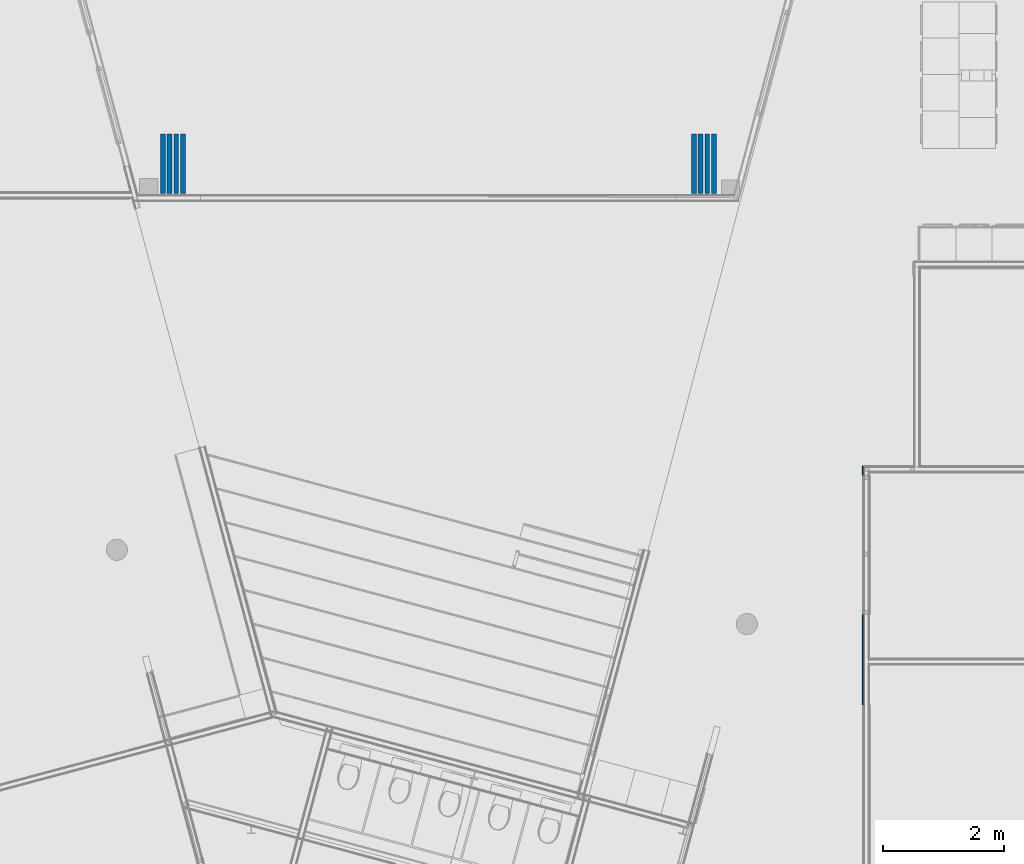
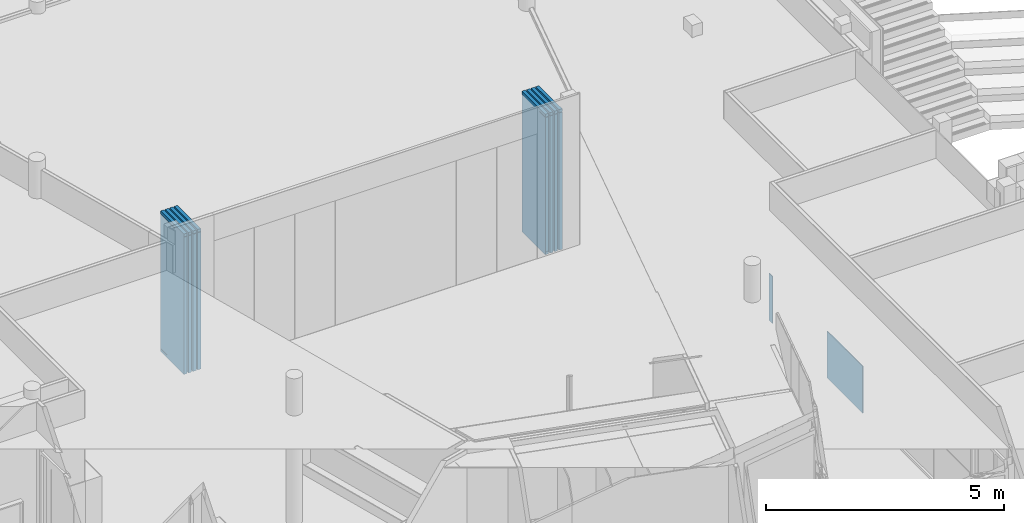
# One storey, part 16 of 167: 10 walls.
"""IFC2X3 building model written with IfcOpenShell, lengths in millimetres."""

from ifc_helpers import new_model, entity, si_unit, converted_unit, derived_unit, money_unit, direction, frame, origin_with_axes, place, context, subcontext, project, spatial, faceted_brep, material, type_object, element, save


model = new_model("IFC2X3")

# Units and contexts
model_context = context("Model", 3, precision=0.01, world=origin_with_axes(), true_north=direction((0.0, 1.0)))
plan_context = context("Plan", 3, precision=0.01, world=origin_with_axes(), true_north=direction((0.0, 1.0)))
body_context = subcontext(model_context, "Body", "Model", "MODEL_VIEW")
ifc_project = project(units=[si_unit("LENGTHUNIT", "METRE", prefix="MILLI"), si_unit("AREAUNIT", "SQUARE_METRE"), si_unit("VOLUMEUNIT", "CUBIC_METRE"), converted_unit("PLANEANGLEUNIT", "DEGREE", entity("IfcPlaneAngleMeasure", 0.0174532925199), si_unit("PLANEANGLEUNIT", "RADIAN"), dimensions=[0, 0, 0, 0, 0, 0, 0]), si_unit("SOLIDANGLEUNIT", "STERADIAN"), money_unit("EUR"), converted_unit("TIMEUNIT", "Year", entity("IfcTimeMeasure", 31556926.0), si_unit("TIMEUNIT", "SECOND"), dimensions=[0, 0, 1, 0, 0, 0, 0]), si_unit("MASSUNIT", "GRAM", prefix="KILO"), si_unit("THERMODYNAMICTEMPERATUREUNIT", "DEGREE_CELSIUS"), si_unit("LUMINOUSINTENSITYUNIT", "LUMEN"), si_unit("ENERGYUNIT", "JOULE", prefix="MEGA"), derived_unit("THERMALCONDUCTANCEUNIT", [(si_unit("POWERUNIT", "WATT"), 1), (si_unit("LENGTHUNIT", "METRE"), -1), (si_unit("THERMODYNAMICTEMPERATUREUNIT", "KELVIN"), -1)]), derived_unit("SPECIFICHEATCAPACITYUNIT", [(si_unit("ENERGYUNIT", "JOULE"), 1), (si_unit("MASSUNIT", "GRAM", prefix="KILO"), -1), (si_unit("THERMODYNAMICTEMPERATUREUNIT", "KELVIN"), -1)]), derived_unit("MASSDENSITYUNIT", [(si_unit("MASSUNIT", "GRAM", prefix="KILO"), 1), (si_unit("VOLUMEUNIT", "CUBIC_METRE"), -1)])], contexts=[model_context, plan_context])

# Site, building, storey
site_placement = place(None, origin_with_axes())
site = spatial("IfcSite", under=ifc_project, at=site_placement, Name="Site", CompositionType="ELEMENT")
building_placement = place(site_placement, origin_with_axes())
building = spatial("IfcBuilding", under=site, at=building_placement, Name="Naam gebouw", CompositionType="ELEMENT")
storey_placement = place(building_placement, origin_with_axes())
storey = spatial("IfcBuildingStorey", under=building, at=storey_placement, Name="Begane grond", CompositionType="ELEMENT", Elevation=0.0)

# Walls
ifc_material_1 = material(Name="Hout - Spaanplaat")
wall_type_1 = type_object("IfcWallType", Name="Hout - Spaanplaat 20", PredefinedType="NOTDEFINED")
wall_1_placement = place(storey_placement, frame((24500.0, 16664.6654049, 0.0), z_axis=(0.0, 0.0, 1.0), x_axis=(0.0, 1.0, 0.0)))
element("IfcWall", 1, at=wall_1_placement, inside=storey, type_object=wall_type_1, material=ifc_material_1, Name="21_Wand_Wand-x", context=body_context, shape_type="Brep", body=[
    faceted_brep([(0.0, 20.0, 0.0), (1490.50189268, 20.0, 0.0), (1490.50189268, 0.0, 0.0), (0.0, 0.0, 0.0), (0.0, 20.0, 1200.0), (1490.50189268, 20.0, 1200.0), (1490.50189268, 0.0, 1200.0), (0.0, 0.0, 1200.0)], [[[0, 1, 2, 3]], [[4, 5, 1, 0]], [[2, 1, 5, 6]], [[3, 2, 6, 7]], [[4, 0, 3, 7]], [[7, 6, 5, 4]]]),
])
wall_2_placement = place(storey_placement, frame((24500.0, 20455.1672976, 0.0), z_axis=(0.0, 0.0, 1.0), x_axis=(0.0, 1.0, 0.0)))
element("IfcWall", 2, at=wall_2_placement, inside=storey, type_object=wall_type_1, material=ifc_material_1, Name="21_Wand_Wand-x", context=body_context, shape_type="Brep", body=[
    faceted_brep([(0.0, 20.0, 0.0), (144.832702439, 20.0, 0.0), (144.832702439, 0.0, 0.0), (0.0, 0.0, 0.0), (0.0, 20.0, 1200.0), (144.832702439, 20.0, 1200.0), (144.832702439, 0.0, 1200.0), (0.0, 0.0, 1200.0)], [[[0, 1, 2, 3]], [[4, 5, 1, 0]], [[2, 1, 5, 6]], [[3, 2, 6, 7]], [[4, 0, 3, 7]], [[7, 6, 5, 4]]]),
])
ifc_material_2 = material(Name="ALG - BINNENAFWERKING")
wall_type_2 = type_object("IfcWallType", Name="ALG - BINNENAFWERKING 80", PredefinedType="NOTDEFINED")
for number, where, z_axis, x_axis, name in (
    (3, (12943.3757895, 25102.7515215, -100.0), (0.0, 0.0, 1.0), (0.0, 1.0, 0.0), "22_Wand_Wand-x"),
    (4, (13052.4866446, 25102.7515215, -100.0), (0.0, 0.0, 1.0), (0.0, 1.0, 0.0), "22_Wand_Wand-x"),
    (5, (13162.9116082, 25102.7515215, -100.0), (0.0, 0.0, 1.0), (0.0, 1.0, 0.0), "22_Wand_Wand-x"),
    (6, (13274.067863, 25102.7515215, -100.0), (0.0, 0.0, 1.0), (0.0, 1.0, 0.0), "22_Wand_Wand-x"),
    (7, (21702.1980232, 25102.7515215, -100.0), (0.0, 0.0, 1.0), (0.0, 1.0, 0.0), "22_Wand_Wand-x"),
    (8, (21812.6229869, 25102.7515215, -100.0), (0.0, 0.0, 1.0), (0.0, 1.0, 0.0), "22_Wand_Wand-x"),
    (9, (21922.3166593, 25102.7515215, -100.0), (0.0, 0.0, 1.0), (0.0, 1.0, 0.0), "22_Wand_Wand-x"),
    (10, (22032.741623, 25102.7515215, -100.0), (0.0, 0.0, 1.0), (0.0, 1.0, 0.0), "22_Wand_Wand-x"),
):
    element("IfcWall", number, at=place(storey_placement, frame(where, z_axis=z_axis, x_axis=x_axis)), inside=storey, type_object=wall_type_2, material=ifc_material_2, Name=name, context=body_context, shape_type="Brep", body=[
        faceted_brep([(979.95935372, 40.0, 30.0), (979.95935372, 40.0, 100.0), (979.95935372, -40.0, 100.0), (979.95935372, -40.0, 30.0), (0.0, 40.0, 30.0), (0.0, 40.0, 100.0), (0.0, -40.0, 100.0), (0.0, -40.0, 30.0)], [[[0, 1, 2, 3]], [[4, 5, 1, 0]], [[5, 6, 2, 1]], [[3, 2, 6, 7]], [[4, 0, 3, 7]], [[7, 6, 5, 4]]]),
        faceted_brep([(979.95935372, 40.0, 102.0), (979.95935372, 40.0, 3545.0), (979.95935372, -40.0, 3545.0), (979.95935372, -40.0, 102.0), (0.0, 40.0, 102.0), (0.0, 40.0, 3545.0), (0.0, -40.0, 3545.0), (0.0, -40.0, 102.0)], [[[0, 1, 2, 3]], [[4, 5, 1, 0]], [[5, 6, 2, 1]], [[3, 2, 6, 7]], [[4, 0, 3, 7]], [[7, 6, 5, 4]]]),
        faceted_brep([(0.0, -40.0, 3630.0), (0.0, -40.0, 3555.0), (979.95935372, -40.0, 3555.0), (979.95935372, -40.0, 3630.0), (0.0, 40.0, 3630.0), (0.0, 40.0, 3555.0), (979.95935372, 40.0, 3555.0), (979.95935372, 40.0, 3630.0)], [[[0, 1, 2, 3]], [[4, 5, 1, 0]], [[5, 6, 2, 1]], [[3, 2, 6, 7]], [[4, 0, 3, 7]], [[7, 6, 5, 4]]]),
    ])

save(model, "model.ifc")
